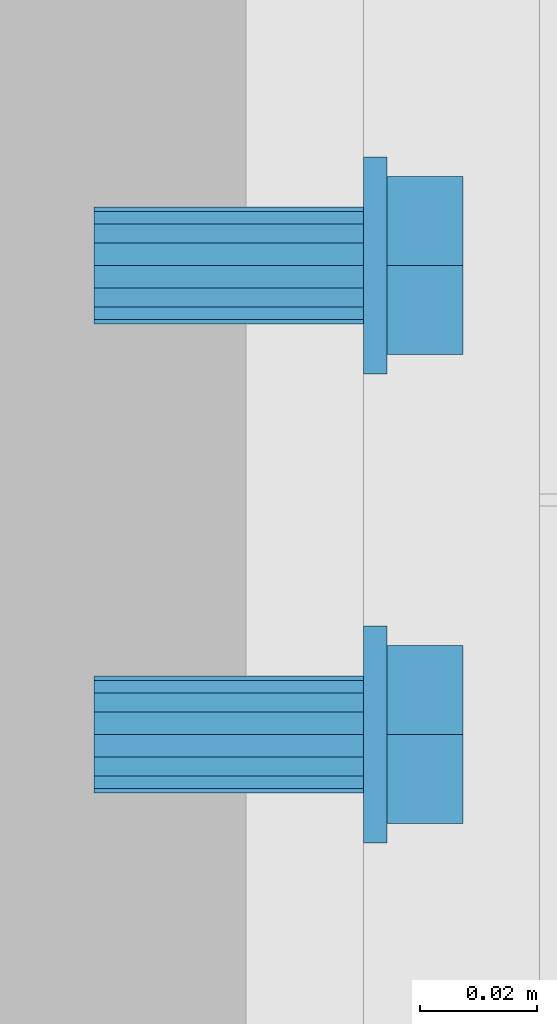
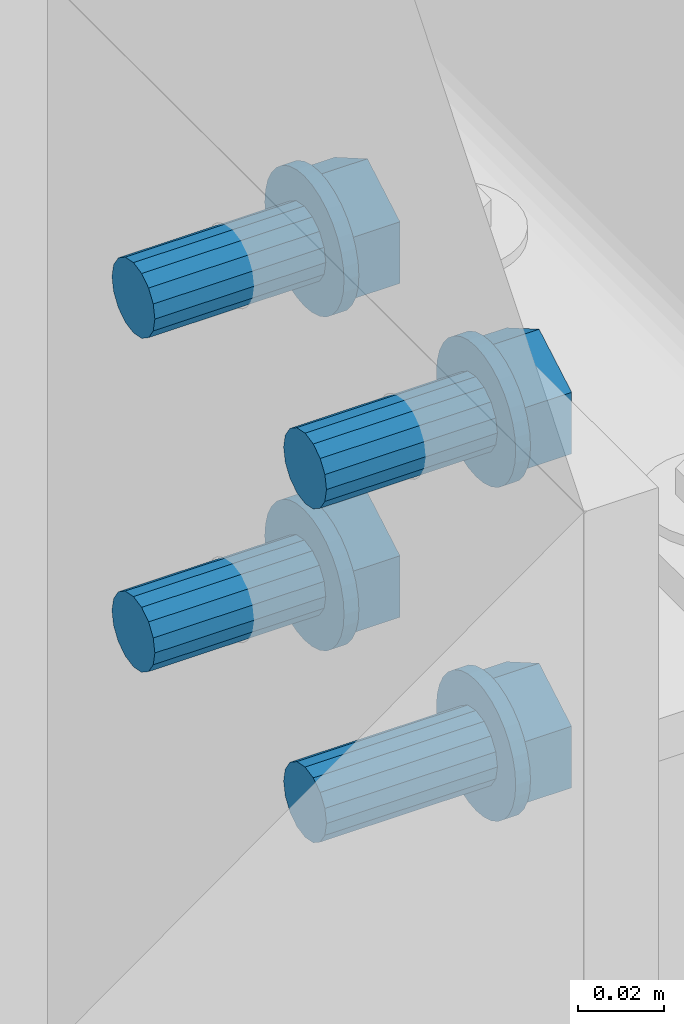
# One storey, part 310 of 410: 4 mechanical fasteners.
"""IFC2X3 building model written with IfcOpenShell, lengths in millimetres."""

from ifc_helpers import new_model, entity, si_unit, converted_unit, origin_with_axes, place, context, project, spatial, faceted_brep, element, save


model = new_model("IFC2X3")

# Units and contexts
model_context = context("Model", 3, precision=1e-09, world=origin_with_axes())
ifc_project = project(units=[si_unit("LENGTHUNIT", "METRE", prefix="MILLI"), si_unit("AREAUNIT", "SQUARE_METRE"), si_unit("VOLUMEUNIT", "CUBIC_METRE"), converted_unit("PLANEANGLEUNIT", "DEGREE", entity("IfcPlaneAngleMeasure", 0.01745329), si_unit("PLANEANGLEUNIT", "RADIAN"), dimensions=[0, 0, 0, 0, 0, 0, 0])], contexts=[model_context])

# Site, building, storey
site_placement = place(None, origin_with_axes())
site = spatial("IfcSite", under=ifc_project, at=site_placement, Name="mKR Teilneubau & Sanierung BA1 - Ostfildern", CompositionType="ELEMENT")
building_placement = place(site_placement, origin_with_axes())
building = spatial("IfcBuilding", under=site, at=building_placement, Name="Struktur 1", CompositionType="ELEMENT")
storey_placement = place(building_placement, origin_with_axes())
storey = spatial("IfcBuildingStorey", under=building, at=storey_placement, Name="Default Storey", CompositionType="ELEMENT", Elevation=0.0)

# Mechanical fasteners
mechanical_fastener_1_placement = place(None, origin_with_axes())
element("IfcMechanicalFastener", 1, at=mechanical_fastener_1_placement, inside=storey, ObjectType="-", NominalDiameter=20.0, NominalLength=50.0, context=model_context, shape_type="Brep", body=[
    faceted_brep([(1795.0, 16958.5, 1578.0434785), (1799.0, 16958.5, 1578.0434785), (1799.0, 16958.144527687, 1574.434307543), (1795.0, 16958.144527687, 1574.434307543), (1799.0, 16957.091771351, 1570.963835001), (1795.0, 16957.091771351, 1570.963835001), (1799.0, 16955.382187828, 1567.765429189), (1795.0, 16955.382187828, 1567.765429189), (1799.0, 16953.081475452, 1564.962003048), (1795.0, 16953.081475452, 1564.962003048), (1799.0, 16950.278049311, 1562.661290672), (1795.0, 16950.278049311, 1562.661290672), (1799.0, 16947.079643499, 1560.951707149), (1795.0, 16947.079643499, 1560.951707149), (1799.0, 16943.609170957, 1559.898950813), (1795.0, 16943.609170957, 1559.898950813), (1799.0, 16940.0, 1559.5434785), (1795.0, 16940.0, 1559.5434785), (1799.0, 16936.390829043, 1559.898950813), (1795.0, 16936.390829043, 1559.898950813), (1799.0, 16932.920356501, 1560.951707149), (1795.0, 16932.920356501, 1560.951707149), (1799.0, 16929.721950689, 1562.661290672), (1795.0, 16929.721950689, 1562.661290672), (1799.0, 16926.918524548, 1564.962003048), (1795.0, 16926.918524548, 1564.962003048), (1799.0, 16924.617812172, 1567.765429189), (1795.0, 16924.617812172, 1567.765429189), (1799.0, 16922.908228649, 1570.963835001), (1795.0, 16922.908228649, 1570.963835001), (1799.0, 16921.855472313, 1574.434307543), (1795.0, 16921.855472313, 1574.434307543), (1799.0, 16921.5, 1578.0434785), (1795.0, 16921.5, 1578.0434785), (1799.0, 16921.855472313, 1581.652649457), (1795.0, 16921.855472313, 1581.652649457), (1799.0, 16922.908228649, 1585.123121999), (1795.0, 16922.908228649, 1585.123121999), (1799.0, 16924.617812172, 1588.321527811), (1795.0, 16924.617812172, 1588.321527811), (1799.0, 16926.918524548, 1591.124953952), (1795.0, 16926.918524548, 1591.124953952), (1799.0, 16929.721950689, 1593.425666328), (1795.0, 16929.721950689, 1593.425666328), (1799.0, 16932.920356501, 1595.135249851), (1795.0, 16932.920356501, 1595.135249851), (1799.0, 16936.390829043, 1596.188006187), (1795.0, 16936.390829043, 1596.188006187), (1799.0, 16940.0, 1596.5434785), (1795.0, 16940.0, 1596.5434785), (1799.0, 16943.609170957, 1596.188006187), (1795.0, 16943.609170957, 1596.188006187), (1799.0, 16947.079643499, 1595.135249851), (1795.0, 16947.079643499, 1595.135249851), (1799.0, 16950.278049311, 1593.425666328), (1795.0, 16950.278049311, 1593.425666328), (1799.0, 16953.081475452, 1591.124953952), (1795.0, 16953.081475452, 1591.124953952), (1799.0, 16955.382187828, 1588.321527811), (1795.0, 16955.382187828, 1588.321527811), (1799.0, 16957.091771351, 1585.123121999), (1795.0, 16957.091771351, 1585.123121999), (1799.0, 16958.144527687, 1581.652649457), (1795.0, 16958.144527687, 1581.652649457)], [[[0, 1, 2, 3]], [[3, 2, 4, 5]], [[5, 4, 6, 7]], [[7, 6, 8, 9]], [[9, 8, 10, 11]], [[11, 10, 12, 13]], [[13, 12, 14, 15]], [[15, 14, 16, 17]], [[17, 16, 18, 19]], [[19, 18, 20, 21]], [[21, 20, 22, 23]], [[23, 22, 24, 25]], [[25, 24, 26, 27]], [[27, 26, 28, 29]], [[29, 28, 30, 31]], [[31, 30, 32, 33]], [[33, 32, 34, 35]], [[35, 34, 36, 37]], [[37, 36, 38, 39]], [[39, 38, 40, 41]], [[41, 40, 42, 43]], [[43, 42, 44, 45]], [[45, 44, 46, 47]], [[47, 46, 48, 49]], [[49, 48, 50, 51]], [[51, 50, 52, 53]], [[53, 52, 54, 55]], [[55, 54, 56, 57]], [[57, 56, 58, 59]], [[59, 58, 60, 61]], [[61, 60, 62, 63]], [[63, 62, 1, 0]], [[2, 1, 62, 60, 58, 56, 54, 52, 50, 48, 46, 44, 42, 40, 38, 36, 34, 32, 30, 28, 26, 24, 22, 20, 18, 16, 14, 12, 10, 8, 6, 4]], [[63, 0, 3, 5, 7, 9, 11, 13, 15, 17, 19, 21, 23, 25, 27, 29, 31, 33, 35, 37, 39, 41, 43, 45, 47, 49, 51, 53, 55, 57, 59, 61]]]),
    faceted_brep([(1812.0, 16924.831565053, 1569.2859785), (1799.0, 16924.831565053, 1569.2859785), (1799.0, 16940.0, 1560.5284785), (1812.0, 16940.0, 1560.5284785), (1799.0, 16955.168434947, 1569.2859785), (1812.0, 16955.168434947, 1569.2859785), (1799.0, 16955.168434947, 1586.8009785), (1812.0, 16955.168434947, 1586.8009785), (1799.0, 16940.0, 1595.5584785), (1812.0, 16940.0, 1595.5584785), (1799.0, 16924.831565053, 1586.8009785), (1812.0, 16924.831565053, 1586.8009785)], [[[0, 1, 2, 3]], [[3, 2, 4, 5]], [[5, 4, 6, 7]], [[7, 6, 8, 9]], [[9, 8, 10, 11]], [[11, 10, 1, 0]], [[3, 5, 7, 9, 11, 0]], [[2, 1, 10, 8, 6, 4]]]),
    faceted_brep([(1775.0, 16950.0, 1578.0434785), (1795.0, 16950.0, 1578.0434785), (1795.0, 16949.238795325, 1574.216644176), (1775.0, 16949.238795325, 1574.216644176), (1795.0, 16947.071067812, 1570.972410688), (1775.0, 16947.071067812, 1570.972410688), (1795.0, 16943.826834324, 1568.804683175), (1775.0, 16943.826834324, 1568.804683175), (1795.0, 16940.0, 1568.0434785), (1775.0, 16940.0, 1568.0434785), (1795.0, 16936.173165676, 1568.804683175), (1775.0, 16936.173165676, 1568.804683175), (1795.0, 16932.928932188, 1570.972410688), (1775.0, 16932.928932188, 1570.972410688), (1795.0, 16930.761204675, 1574.216644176), (1775.0, 16930.761204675, 1574.216644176), (1795.0, 16930.0, 1578.0434785), (1775.0, 16930.0, 1578.0434785), (1795.0, 16930.761204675, 1581.870312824), (1775.0, 16930.761204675, 1581.870312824), (1795.0, 16932.928932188, 1585.114546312), (1775.0, 16932.928932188, 1585.114546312), (1795.0, 16936.173165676, 1587.282273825), (1775.0, 16936.173165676, 1587.282273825), (1795.0, 16940.0, 1588.0434785), (1775.0, 16940.0, 1588.0434785), (1795.0, 16943.826834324, 1587.282273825), (1775.0, 16943.826834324, 1587.282273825), (1795.0, 16947.071067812, 1585.114546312), (1775.0, 16947.071067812, 1585.114546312), (1795.0, 16949.238795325, 1581.870312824), (1775.0, 16949.238795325, 1581.870312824)], [[[0, 1, 2, 3]], [[3, 2, 4, 5]], [[5, 4, 6, 7]], [[7, 6, 8, 9]], [[9, 8, 10, 11]], [[11, 10, 12, 13]], [[13, 12, 14, 15]], [[15, 14, 16, 17]], [[17, 16, 18, 19]], [[19, 18, 20, 21]], [[21, 20, 22, 23]], [[23, 22, 24, 25]], [[25, 24, 26, 27]], [[27, 26, 28, 29]], [[29, 28, 30, 31]], [[31, 30, 1, 0]], [[2, 1, 30, 28, 26, 24, 22, 20, 18, 16, 14, 12, 10, 8, 6, 4]], [[31, 0, 3, 5, 7, 9, 11, 13, 15, 17, 19, 21, 23, 25, 27, 29]]]),
    faceted_brep([(1749.0, 16950.0, 1578.0434785), (1775.0, 16950.0, 1578.0434785), (1775.0, 16949.238795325, 1574.216644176), (1749.0, 16949.238795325, 1574.216644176), (1775.0, 16947.071067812, 1570.972410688), (1749.0, 16947.071067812, 1570.972410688), (1775.0, 16943.826834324, 1568.804683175), (1749.0, 16943.826834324, 1568.804683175), (1775.0, 16940.0, 1568.0434785), (1749.0, 16940.0, 1568.0434785), (1775.0, 16936.173165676, 1568.804683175), (1749.0, 16936.173165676, 1568.804683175), (1775.0, 16932.928932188, 1570.972410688), (1749.0, 16932.928932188, 1570.972410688), (1775.0, 16930.761204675, 1574.216644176), (1749.0, 16930.761204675, 1574.216644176), (1775.0, 16930.0, 1578.0434785), (1749.0, 16930.0, 1578.0434785), (1775.0, 16930.761204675, 1581.870312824), (1749.0, 16930.761204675, 1581.870312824), (1775.0, 16932.928932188, 1585.114546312), (1749.0, 16932.928932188, 1585.114546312), (1775.0, 16936.173165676, 1587.282273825), (1749.0, 16936.173165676, 1587.282273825), (1775.0, 16940.0, 1588.0434785), (1749.0, 16940.0, 1588.0434785), (1775.0, 16943.826834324, 1587.282273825), (1749.0, 16943.826834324, 1587.282273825), (1775.0, 16947.071067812, 1585.114546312), (1749.0, 16947.071067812, 1585.114546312), (1775.0, 16949.238795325, 1581.870312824), (1749.0, 16949.238795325, 1581.870312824)], [[[0, 1, 2, 3]], [[3, 2, 4, 5]], [[5, 4, 6, 7]], [[7, 6, 8, 9]], [[9, 8, 10, 11]], [[11, 10, 12, 13]], [[13, 12, 14, 15]], [[15, 14, 16, 17]], [[17, 16, 18, 19]], [[19, 18, 20, 21]], [[21, 20, 22, 23]], [[23, 22, 24, 25]], [[25, 24, 26, 27]], [[27, 26, 28, 29]], [[29, 28, 30, 31]], [[31, 30, 1, 0]], [[2, 1, 30, 28, 26, 24, 22, 20, 18, 16, 14, 12, 10, 8, 6, 4]], [[31, 0, 3, 5, 7, 9, 11, 13, 15, 17, 19, 21, 23, 25, 27, 29]]]),
])
mechanical_fastener_2_placement = place(None, origin_with_axes())
element("IfcMechanicalFastener", 2, at=mechanical_fastener_2_placement, inside=storey, ObjectType="-", NominalDiameter=20.0, NominalLength=50.0, context=model_context, shape_type="Brep", body=[
    faceted_brep([(1795.0, 17038.5, 1578.0434785), (1799.0, 17038.5, 1578.0434785), (1799.0, 17038.144527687, 1574.434307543), (1795.0, 17038.144527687, 1574.434307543), (1799.0, 17037.091771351, 1570.963835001), (1795.0, 17037.091771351, 1570.963835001), (1799.0, 17035.382187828, 1567.765429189), (1795.0, 17035.382187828, 1567.765429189), (1799.0, 17033.081475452, 1564.962003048), (1795.0, 17033.081475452, 1564.962003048), (1799.0, 17030.278049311, 1562.661290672), (1795.0, 17030.278049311, 1562.661290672), (1799.0, 17027.079643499, 1560.951707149), (1795.0, 17027.079643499, 1560.951707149), (1799.0, 17023.609170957, 1559.898950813), (1795.0, 17023.609170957, 1559.898950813), (1799.0, 17020.0, 1559.5434785), (1795.0, 17020.0, 1559.5434785), (1799.0, 17016.390829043, 1559.898950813), (1795.0, 17016.390829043, 1559.898950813), (1799.0, 17012.920356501, 1560.951707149), (1795.0, 17012.920356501, 1560.951707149), (1799.0, 17009.721950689, 1562.661290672), (1795.0, 17009.721950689, 1562.661290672), (1799.0, 17006.918524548, 1564.962003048), (1795.0, 17006.918524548, 1564.962003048), (1799.0, 17004.617812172, 1567.765429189), (1795.0, 17004.617812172, 1567.765429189), (1799.0, 17002.908228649, 1570.963835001), (1795.0, 17002.908228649, 1570.963835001), (1799.0, 17001.855472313, 1574.434307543), (1795.0, 17001.855472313, 1574.434307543), (1799.0, 17001.5, 1578.0434785), (1795.0, 17001.5, 1578.0434785), (1799.0, 17001.855472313, 1581.652649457), (1795.0, 17001.855472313, 1581.652649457), (1799.0, 17002.908228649, 1585.123121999), (1795.0, 17002.908228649, 1585.123121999), (1799.0, 17004.617812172, 1588.321527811), (1795.0, 17004.617812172, 1588.321527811), (1799.0, 17006.918524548, 1591.124953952), (1795.0, 17006.918524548, 1591.124953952), (1799.0, 17009.721950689, 1593.425666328), (1795.0, 17009.721950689, 1593.425666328), (1799.0, 17012.920356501, 1595.135249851), (1795.0, 17012.920356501, 1595.135249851), (1799.0, 17016.390829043, 1596.188006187), (1795.0, 17016.390829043, 1596.188006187), (1799.0, 17020.0, 1596.5434785), (1795.0, 17020.0, 1596.5434785), (1799.0, 17023.609170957, 1596.188006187), (1795.0, 17023.609170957, 1596.188006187), (1799.0, 17027.079643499, 1595.135249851), (1795.0, 17027.079643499, 1595.135249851), (1799.0, 17030.278049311, 1593.425666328), (1795.0, 17030.278049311, 1593.425666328), (1799.0, 17033.081475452, 1591.124953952), (1795.0, 17033.081475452, 1591.124953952), (1799.0, 17035.382187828, 1588.321527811), (1795.0, 17035.382187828, 1588.321527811), (1799.0, 17037.091771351, 1585.123121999), (1795.0, 17037.091771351, 1585.123121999), (1799.0, 17038.144527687, 1581.652649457), (1795.0, 17038.144527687, 1581.652649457)], [[[0, 1, 2, 3]], [[3, 2, 4, 5]], [[5, 4, 6, 7]], [[7, 6, 8, 9]], [[9, 8, 10, 11]], [[11, 10, 12, 13]], [[13, 12, 14, 15]], [[15, 14, 16, 17]], [[17, 16, 18, 19]], [[19, 18, 20, 21]], [[21, 20, 22, 23]], [[23, 22, 24, 25]], [[25, 24, 26, 27]], [[27, 26, 28, 29]], [[29, 28, 30, 31]], [[31, 30, 32, 33]], [[33, 32, 34, 35]], [[35, 34, 36, 37]], [[37, 36, 38, 39]], [[39, 38, 40, 41]], [[41, 40, 42, 43]], [[43, 42, 44, 45]], [[45, 44, 46, 47]], [[47, 46, 48, 49]], [[49, 48, 50, 51]], [[51, 50, 52, 53]], [[53, 52, 54, 55]], [[55, 54, 56, 57]], [[57, 56, 58, 59]], [[59, 58, 60, 61]], [[61, 60, 62, 63]], [[63, 62, 1, 0]], [[2, 1, 62, 60, 58, 56, 54, 52, 50, 48, 46, 44, 42, 40, 38, 36, 34, 32, 30, 28, 26, 24, 22, 20, 18, 16, 14, 12, 10, 8, 6, 4]], [[63, 0, 3, 5, 7, 9, 11, 13, 15, 17, 19, 21, 23, 25, 27, 29, 31, 33, 35, 37, 39, 41, 43, 45, 47, 49, 51, 53, 55, 57, 59, 61]]]),
    faceted_brep([(1812.0, 17004.831565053, 1569.2859785), (1799.0, 17004.831565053, 1569.2859785), (1799.0, 17020.0, 1560.5284785), (1812.0, 17020.0, 1560.5284785), (1799.0, 17035.168434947, 1569.2859785), (1812.0, 17035.168434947, 1569.2859785), (1799.0, 17035.168434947, 1586.8009785), (1812.0, 17035.168434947, 1586.8009785), (1799.0, 17020.0, 1595.5584785), (1812.0, 17020.0, 1595.5584785), (1799.0, 17004.831565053, 1586.8009785), (1812.0, 17004.831565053, 1586.8009785)], [[[0, 1, 2, 3]], [[3, 2, 4, 5]], [[5, 4, 6, 7]], [[7, 6, 8, 9]], [[9, 8, 10, 11]], [[11, 10, 1, 0]], [[3, 5, 7, 9, 11, 0]], [[2, 1, 10, 8, 6, 4]]]),
    faceted_brep([(1775.0, 17030.0, 1578.0434785), (1795.0, 17030.0, 1578.0434785), (1795.0, 17029.238795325, 1574.216644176), (1775.0, 17029.238795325, 1574.216644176), (1795.0, 17027.071067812, 1570.972410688), (1775.0, 17027.071067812, 1570.972410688), (1795.0, 17023.826834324, 1568.804683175), (1775.0, 17023.826834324, 1568.804683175), (1795.0, 17020.0, 1568.0434785), (1775.0, 17020.0, 1568.0434785), (1795.0, 17016.173165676, 1568.804683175), (1775.0, 17016.173165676, 1568.804683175), (1795.0, 17012.928932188, 1570.972410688), (1775.0, 17012.928932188, 1570.972410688), (1795.0, 17010.761204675, 1574.216644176), (1775.0, 17010.761204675, 1574.216644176), (1795.0, 17010.0, 1578.0434785), (1775.0, 17010.0, 1578.0434785), (1795.0, 17010.761204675, 1581.870312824), (1775.0, 17010.761204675, 1581.870312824), (1795.0, 17012.928932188, 1585.114546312), (1775.0, 17012.928932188, 1585.114546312), (1795.0, 17016.173165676, 1587.282273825), (1775.0, 17016.173165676, 1587.282273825), (1795.0, 17020.0, 1588.0434785), (1775.0, 17020.0, 1588.0434785), (1795.0, 17023.826834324, 1587.282273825), (1775.0, 17023.826834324, 1587.282273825), (1795.0, 17027.071067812, 1585.114546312), (1775.0, 17027.071067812, 1585.114546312), (1795.0, 17029.238795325, 1581.870312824), (1775.0, 17029.238795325, 1581.870312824)], [[[0, 1, 2, 3]], [[3, 2, 4, 5]], [[5, 4, 6, 7]], [[7, 6, 8, 9]], [[9, 8, 10, 11]], [[11, 10, 12, 13]], [[13, 12, 14, 15]], [[15, 14, 16, 17]], [[17, 16, 18, 19]], [[19, 18, 20, 21]], [[21, 20, 22, 23]], [[23, 22, 24, 25]], [[25, 24, 26, 27]], [[27, 26, 28, 29]], [[29, 28, 30, 31]], [[31, 30, 1, 0]], [[2, 1, 30, 28, 26, 24, 22, 20, 18, 16, 14, 12, 10, 8, 6, 4]], [[31, 0, 3, 5, 7, 9, 11, 13, 15, 17, 19, 21, 23, 25, 27, 29]]]),
    faceted_brep([(1749.0, 17030.0, 1578.0434785), (1775.0, 17030.0, 1578.0434785), (1775.0, 17029.238795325, 1574.216644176), (1749.0, 17029.238795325, 1574.216644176), (1775.0, 17027.071067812, 1570.972410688), (1749.0, 17027.071067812, 1570.972410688), (1775.0, 17023.826834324, 1568.804683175), (1749.0, 17023.826834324, 1568.804683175), (1775.0, 17020.0, 1568.0434785), (1749.0, 17020.0, 1568.0434785), (1775.0, 17016.173165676, 1568.804683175), (1749.0, 17016.173165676, 1568.804683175), (1775.0, 17012.928932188, 1570.972410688), (1749.0, 17012.928932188, 1570.972410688), (1775.0, 17010.761204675, 1574.216644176), (1749.0, 17010.761204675, 1574.216644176), (1775.0, 17010.0, 1578.0434785), (1749.0, 17010.0, 1578.0434785), (1775.0, 17010.761204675, 1581.870312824), (1749.0, 17010.761204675, 1581.870312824), (1775.0, 17012.928932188, 1585.114546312), (1749.0, 17012.928932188, 1585.114546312), (1775.0, 17016.173165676, 1587.282273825), (1749.0, 17016.173165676, 1587.282273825), (1775.0, 17020.0, 1588.0434785), (1749.0, 17020.0, 1588.0434785), (1775.0, 17023.826834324, 1587.282273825), (1749.0, 17023.826834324, 1587.282273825), (1775.0, 17027.071067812, 1585.114546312), (1749.0, 17027.071067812, 1585.114546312), (1775.0, 17029.238795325, 1581.870312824), (1749.0, 17029.238795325, 1581.870312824)], [[[0, 1, 2, 3]], [[3, 2, 4, 5]], [[5, 4, 6, 7]], [[7, 6, 8, 9]], [[9, 8, 10, 11]], [[11, 10, 12, 13]], [[13, 12, 14, 15]], [[15, 14, 16, 17]], [[17, 16, 18, 19]], [[19, 18, 20, 21]], [[21, 20, 22, 23]], [[23, 22, 24, 25]], [[25, 24, 26, 27]], [[27, 26, 28, 29]], [[29, 28, 30, 31]], [[31, 30, 1, 0]], [[2, 1, 30, 28, 26, 24, 22, 20, 18, 16, 14, 12, 10, 8, 6, 4]], [[31, 0, 3, 5, 7, 9, 11, 13, 15, 17, 19, 21, 23, 25, 27, 29]]]),
])
mechanical_fastener_3_placement = place(None, origin_with_axes())
element("IfcMechanicalFastener", 3, at=mechanical_fastener_3_placement, inside=storey, ObjectType="-", NominalDiameter=20.0, NominalLength=50.0, context=model_context, shape_type="Brep", body=[
    faceted_brep([(1795.0, 16958.5, 1673.0434785), (1799.0, 16958.5, 1673.0434785), (1799.0, 16958.144527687, 1669.434307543), (1795.0, 16958.144527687, 1669.434307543), (1799.0, 16957.091771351, 1665.963835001), (1795.0, 16957.091771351, 1665.963835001), (1799.0, 16955.382187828, 1662.765429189), (1795.0, 16955.382187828, 1662.765429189), (1799.0, 16953.081475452, 1659.962003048), (1795.0, 16953.081475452, 1659.962003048), (1799.0, 16950.278049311, 1657.661290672), (1795.0, 16950.278049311, 1657.661290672), (1799.0, 16947.079643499, 1655.951707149), (1795.0, 16947.079643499, 1655.951707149), (1799.0, 16943.609170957, 1654.898950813), (1795.0, 16943.609170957, 1654.898950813), (1799.0, 16940.0, 1654.5434785), (1795.0, 16940.0, 1654.5434785), (1799.0, 16936.390829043, 1654.898950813), (1795.0, 16936.390829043, 1654.898950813), (1799.0, 16932.920356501, 1655.951707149), (1795.0, 16932.920356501, 1655.951707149), (1799.0, 16929.721950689, 1657.661290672), (1795.0, 16929.721950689, 1657.661290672), (1799.0, 16926.918524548, 1659.962003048), (1795.0, 16926.918524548, 1659.962003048), (1799.0, 16924.617812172, 1662.765429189), (1795.0, 16924.617812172, 1662.765429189), (1799.0, 16922.908228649, 1665.963835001), (1795.0, 16922.908228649, 1665.963835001), (1799.0, 16921.855472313, 1669.434307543), (1795.0, 16921.855472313, 1669.434307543), (1799.0, 16921.5, 1673.0434785), (1795.0, 16921.5, 1673.0434785), (1799.0, 16921.855472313, 1676.652649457), (1795.0, 16921.855472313, 1676.652649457), (1799.0, 16922.908228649, 1680.123121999), (1795.0, 16922.908228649, 1680.123121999), (1799.0, 16924.617812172, 1683.321527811), (1795.0, 16924.617812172, 1683.321527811), (1799.0, 16926.918524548, 1686.124953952), (1795.0, 16926.918524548, 1686.124953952), (1799.0, 16929.721950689, 1688.425666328), (1795.0, 16929.721950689, 1688.425666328), (1799.0, 16932.920356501, 1690.135249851), (1795.0, 16932.920356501, 1690.135249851), (1799.0, 16936.390829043, 1691.188006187), (1795.0, 16936.390829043, 1691.188006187), (1799.0, 16940.0, 1691.5434785), (1795.0, 16940.0, 1691.5434785), (1799.0, 16943.609170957, 1691.188006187), (1795.0, 16943.609170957, 1691.188006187), (1799.0, 16947.079643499, 1690.135249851), (1795.0, 16947.079643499, 1690.135249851), (1799.0, 16950.278049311, 1688.425666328), (1795.0, 16950.278049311, 1688.425666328), (1799.0, 16953.081475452, 1686.124953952), (1795.0, 16953.081475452, 1686.124953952), (1799.0, 16955.382187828, 1683.321527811), (1795.0, 16955.382187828, 1683.321527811), (1799.0, 16957.091771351, 1680.123121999), (1795.0, 16957.091771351, 1680.123121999), (1799.0, 16958.144527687, 1676.652649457), (1795.0, 16958.144527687, 1676.652649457)], [[[0, 1, 2, 3]], [[3, 2, 4, 5]], [[5, 4, 6, 7]], [[7, 6, 8, 9]], [[9, 8, 10, 11]], [[11, 10, 12, 13]], [[13, 12, 14, 15]], [[15, 14, 16, 17]], [[17, 16, 18, 19]], [[19, 18, 20, 21]], [[21, 20, 22, 23]], [[23, 22, 24, 25]], [[25, 24, 26, 27]], [[27, 26, 28, 29]], [[29, 28, 30, 31]], [[31, 30, 32, 33]], [[33, 32, 34, 35]], [[35, 34, 36, 37]], [[37, 36, 38, 39]], [[39, 38, 40, 41]], [[41, 40, 42, 43]], [[43, 42, 44, 45]], [[45, 44, 46, 47]], [[47, 46, 48, 49]], [[49, 48, 50, 51]], [[51, 50, 52, 53]], [[53, 52, 54, 55]], [[55, 54, 56, 57]], [[57, 56, 58, 59]], [[59, 58, 60, 61]], [[61, 60, 62, 63]], [[63, 62, 1, 0]], [[2, 1, 62, 60, 58, 56, 54, 52, 50, 48, 46, 44, 42, 40, 38, 36, 34, 32, 30, 28, 26, 24, 22, 20, 18, 16, 14, 12, 10, 8, 6, 4]], [[63, 0, 3, 5, 7, 9, 11, 13, 15, 17, 19, 21, 23, 25, 27, 29, 31, 33, 35, 37, 39, 41, 43, 45, 47, 49, 51, 53, 55, 57, 59, 61]]]),
    faceted_brep([(1812.0, 16924.831565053, 1664.2859785), (1799.0, 16924.831565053, 1664.2859785), (1799.0, 16940.0, 1655.5284785), (1812.0, 16940.0, 1655.5284785), (1799.0, 16955.168434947, 1664.2859785), (1812.0, 16955.168434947, 1664.2859785), (1799.0, 16955.168434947, 1681.8009785), (1812.0, 16955.168434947, 1681.8009785), (1799.0, 16940.0, 1690.5584785), (1812.0, 16940.0, 1690.5584785), (1799.0, 16924.831565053, 1681.8009785), (1812.0, 16924.831565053, 1681.8009785)], [[[0, 1, 2, 3]], [[3, 2, 4, 5]], [[5, 4, 6, 7]], [[7, 6, 8, 9]], [[9, 8, 10, 11]], [[11, 10, 1, 0]], [[3, 5, 7, 9, 11, 0]], [[2, 1, 10, 8, 6, 4]]]),
    faceted_brep([(1775.0, 16950.0, 1673.0434785), (1795.0, 16950.0, 1673.0434785), (1795.0, 16949.238795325, 1669.216644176), (1775.0, 16949.238795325, 1669.216644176), (1795.0, 16947.071067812, 1665.972410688), (1775.0, 16947.071067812, 1665.972410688), (1795.0, 16943.826834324, 1663.804683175), (1775.0, 16943.826834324, 1663.804683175), (1795.0, 16940.0, 1663.0434785), (1775.0, 16940.0, 1663.0434785), (1795.0, 16936.173165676, 1663.804683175), (1775.0, 16936.173165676, 1663.804683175), (1795.0, 16932.928932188, 1665.972410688), (1775.0, 16932.928932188, 1665.972410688), (1795.0, 16930.761204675, 1669.216644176), (1775.0, 16930.761204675, 1669.216644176), (1795.0, 16930.0, 1673.0434785), (1775.0, 16930.0, 1673.0434785), (1795.0, 16930.761204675, 1676.870312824), (1775.0, 16930.761204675, 1676.870312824), (1795.0, 16932.928932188, 1680.114546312), (1775.0, 16932.928932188, 1680.114546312), (1795.0, 16936.173165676, 1682.282273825), (1775.0, 16936.173165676, 1682.282273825), (1795.0, 16940.0, 1683.0434785), (1775.0, 16940.0, 1683.0434785), (1795.0, 16943.826834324, 1682.282273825), (1775.0, 16943.826834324, 1682.282273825), (1795.0, 16947.071067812, 1680.114546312), (1775.0, 16947.071067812, 1680.114546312), (1795.0, 16949.238795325, 1676.870312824), (1775.0, 16949.238795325, 1676.870312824)], [[[0, 1, 2, 3]], [[3, 2, 4, 5]], [[5, 4, 6, 7]], [[7, 6, 8, 9]], [[9, 8, 10, 11]], [[11, 10, 12, 13]], [[13, 12, 14, 15]], [[15, 14, 16, 17]], [[17, 16, 18, 19]], [[19, 18, 20, 21]], [[21, 20, 22, 23]], [[23, 22, 24, 25]], [[25, 24, 26, 27]], [[27, 26, 28, 29]], [[29, 28, 30, 31]], [[31, 30, 1, 0]], [[2, 1, 30, 28, 26, 24, 22, 20, 18, 16, 14, 12, 10, 8, 6, 4]], [[31, 0, 3, 5, 7, 9, 11, 13, 15, 17, 19, 21, 23, 25, 27, 29]]]),
    faceted_brep([(1749.0, 16950.0, 1673.0434785), (1775.0, 16950.0, 1673.0434785), (1775.0, 16949.238795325, 1669.216644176), (1749.0, 16949.238795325, 1669.216644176), (1775.0, 16947.071067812, 1665.972410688), (1749.0, 16947.071067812, 1665.972410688), (1775.0, 16943.826834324, 1663.804683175), (1749.0, 16943.826834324, 1663.804683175), (1775.0, 16940.0, 1663.0434785), (1749.0, 16940.0, 1663.0434785), (1775.0, 16936.173165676, 1663.804683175), (1749.0, 16936.173165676, 1663.804683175), (1775.0, 16932.928932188, 1665.972410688), (1749.0, 16932.928932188, 1665.972410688), (1775.0, 16930.761204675, 1669.216644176), (1749.0, 16930.761204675, 1669.216644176), (1775.0, 16930.0, 1673.0434785), (1749.0, 16930.0, 1673.0434785), (1775.0, 16930.761204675, 1676.870312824), (1749.0, 16930.761204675, 1676.870312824), (1775.0, 16932.928932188, 1680.114546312), (1749.0, 16932.928932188, 1680.114546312), (1775.0, 16936.173165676, 1682.282273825), (1749.0, 16936.173165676, 1682.282273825), (1775.0, 16940.0, 1683.0434785), (1749.0, 16940.0, 1683.0434785), (1775.0, 16943.826834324, 1682.282273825), (1749.0, 16943.826834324, 1682.282273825), (1775.0, 16947.071067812, 1680.114546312), (1749.0, 16947.071067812, 1680.114546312), (1775.0, 16949.238795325, 1676.870312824), (1749.0, 16949.238795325, 1676.870312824)], [[[0, 1, 2, 3]], [[3, 2, 4, 5]], [[5, 4, 6, 7]], [[7, 6, 8, 9]], [[9, 8, 10, 11]], [[11, 10, 12, 13]], [[13, 12, 14, 15]], [[15, 14, 16, 17]], [[17, 16, 18, 19]], [[19, 18, 20, 21]], [[21, 20, 22, 23]], [[23, 22, 24, 25]], [[25, 24, 26, 27]], [[27, 26, 28, 29]], [[29, 28, 30, 31]], [[31, 30, 1, 0]], [[2, 1, 30, 28, 26, 24, 22, 20, 18, 16, 14, 12, 10, 8, 6, 4]], [[31, 0, 3, 5, 7, 9, 11, 13, 15, 17, 19, 21, 23, 25, 27, 29]]]),
])
mechanical_fastener_4_placement = place(None, origin_with_axes())
element("IfcMechanicalFastener", 4, at=mechanical_fastener_4_placement, inside=storey, ObjectType="-", NominalDiameter=20.0, NominalLength=50.0, context=model_context, shape_type="Brep", body=[
    faceted_brep([(1795.0, 17038.5, 1673.0434785), (1799.0, 17038.5, 1673.0434785), (1799.0, 17038.144527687, 1669.434307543), (1795.0, 17038.144527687, 1669.434307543), (1799.0, 17037.091771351, 1665.963835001), (1795.0, 17037.091771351, 1665.963835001), (1799.0, 17035.382187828, 1662.765429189), (1795.0, 17035.382187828, 1662.765429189), (1799.0, 17033.081475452, 1659.962003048), (1795.0, 17033.081475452, 1659.962003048), (1799.0, 17030.278049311, 1657.661290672), (1795.0, 17030.278049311, 1657.661290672), (1799.0, 17027.079643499, 1655.951707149), (1795.0, 17027.079643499, 1655.951707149), (1799.0, 17023.609170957, 1654.898950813), (1795.0, 17023.609170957, 1654.898950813), (1799.0, 17020.0, 1654.5434785), (1795.0, 17020.0, 1654.5434785), (1799.0, 17016.390829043, 1654.898950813), (1795.0, 17016.390829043, 1654.898950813), (1799.0, 17012.920356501, 1655.951707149), (1795.0, 17012.920356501, 1655.951707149), (1799.0, 17009.721950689, 1657.661290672), (1795.0, 17009.721950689, 1657.661290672), (1799.0, 17006.918524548, 1659.962003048), (1795.0, 17006.918524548, 1659.962003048), (1799.0, 17004.617812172, 1662.765429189), (1795.0, 17004.617812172, 1662.765429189), (1799.0, 17002.908228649, 1665.963835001), (1795.0, 17002.908228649, 1665.963835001), (1799.0, 17001.855472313, 1669.434307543), (1795.0, 17001.855472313, 1669.434307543), (1799.0, 17001.5, 1673.0434785), (1795.0, 17001.5, 1673.0434785), (1799.0, 17001.855472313, 1676.652649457), (1795.0, 17001.855472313, 1676.652649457), (1799.0, 17002.908228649, 1680.123121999), (1795.0, 17002.908228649, 1680.123121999), (1799.0, 17004.617812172, 1683.321527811), (1795.0, 17004.617812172, 1683.321527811), (1799.0, 17006.918524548, 1686.124953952), (1795.0, 17006.918524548, 1686.124953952), (1799.0, 17009.721950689, 1688.425666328), (1795.0, 17009.721950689, 1688.425666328), (1799.0, 17012.920356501, 1690.135249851), (1795.0, 17012.920356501, 1690.135249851), (1799.0, 17016.390829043, 1691.188006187), (1795.0, 17016.390829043, 1691.188006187), (1799.0, 17020.0, 1691.5434785), (1795.0, 17020.0, 1691.5434785), (1799.0, 17023.609170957, 1691.188006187), (1795.0, 17023.609170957, 1691.188006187), (1799.0, 17027.079643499, 1690.135249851), (1795.0, 17027.079643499, 1690.135249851), (1799.0, 17030.278049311, 1688.425666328), (1795.0, 17030.278049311, 1688.425666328), (1799.0, 17033.081475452, 1686.124953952), (1795.0, 17033.081475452, 1686.124953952), (1799.0, 17035.382187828, 1683.321527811), (1795.0, 17035.382187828, 1683.321527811), (1799.0, 17037.091771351, 1680.123121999), (1795.0, 17037.091771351, 1680.123121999), (1799.0, 17038.144527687, 1676.652649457), (1795.0, 17038.144527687, 1676.652649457)], [[[0, 1, 2, 3]], [[3, 2, 4, 5]], [[5, 4, 6, 7]], [[7, 6, 8, 9]], [[9, 8, 10, 11]], [[11, 10, 12, 13]], [[13, 12, 14, 15]], [[15, 14, 16, 17]], [[17, 16, 18, 19]], [[19, 18, 20, 21]], [[21, 20, 22, 23]], [[23, 22, 24, 25]], [[25, 24, 26, 27]], [[27, 26, 28, 29]], [[29, 28, 30, 31]], [[31, 30, 32, 33]], [[33, 32, 34, 35]], [[35, 34, 36, 37]], [[37, 36, 38, 39]], [[39, 38, 40, 41]], [[41, 40, 42, 43]], [[43, 42, 44, 45]], [[45, 44, 46, 47]], [[47, 46, 48, 49]], [[49, 48, 50, 51]], [[51, 50, 52, 53]], [[53, 52, 54, 55]], [[55, 54, 56, 57]], [[57, 56, 58, 59]], [[59, 58, 60, 61]], [[61, 60, 62, 63]], [[63, 62, 1, 0]], [[2, 1, 62, 60, 58, 56, 54, 52, 50, 48, 46, 44, 42, 40, 38, 36, 34, 32, 30, 28, 26, 24, 22, 20, 18, 16, 14, 12, 10, 8, 6, 4]], [[63, 0, 3, 5, 7, 9, 11, 13, 15, 17, 19, 21, 23, 25, 27, 29, 31, 33, 35, 37, 39, 41, 43, 45, 47, 49, 51, 53, 55, 57, 59, 61]]]),
    faceted_brep([(1812.0, 17004.831565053, 1664.2859785), (1799.0, 17004.831565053, 1664.2859785), (1799.0, 17020.0, 1655.5284785), (1812.0, 17020.0, 1655.5284785), (1799.0, 17035.168434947, 1664.2859785), (1812.0, 17035.168434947, 1664.2859785), (1799.0, 17035.168434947, 1681.8009785), (1812.0, 17035.168434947, 1681.8009785), (1799.0, 17020.0, 1690.5584785), (1812.0, 17020.0, 1690.5584785), (1799.0, 17004.831565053, 1681.8009785), (1812.0, 17004.831565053, 1681.8009785)], [[[0, 1, 2, 3]], [[3, 2, 4, 5]], [[5, 4, 6, 7]], [[7, 6, 8, 9]], [[9, 8, 10, 11]], [[11, 10, 1, 0]], [[3, 5, 7, 9, 11, 0]], [[2, 1, 10, 8, 6, 4]]]),
    faceted_brep([(1775.0, 17030.0, 1673.0434785), (1795.0, 17030.0, 1673.0434785), (1795.0, 17029.238795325, 1669.216644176), (1775.0, 17029.238795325, 1669.216644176), (1795.0, 17027.071067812, 1665.972410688), (1775.0, 17027.071067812, 1665.972410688), (1795.0, 17023.826834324, 1663.804683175), (1775.0, 17023.826834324, 1663.804683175), (1795.0, 17020.0, 1663.0434785), (1775.0, 17020.0, 1663.0434785), (1795.0, 17016.173165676, 1663.804683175), (1775.0, 17016.173165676, 1663.804683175), (1795.0, 17012.928932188, 1665.972410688), (1775.0, 17012.928932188, 1665.972410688), (1795.0, 17010.761204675, 1669.216644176), (1775.0, 17010.761204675, 1669.216644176), (1795.0, 17010.0, 1673.0434785), (1775.0, 17010.0, 1673.0434785), (1795.0, 17010.761204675, 1676.870312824), (1775.0, 17010.761204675, 1676.870312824), (1795.0, 17012.928932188, 1680.114546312), (1775.0, 17012.928932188, 1680.114546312), (1795.0, 17016.173165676, 1682.282273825), (1775.0, 17016.173165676, 1682.282273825), (1795.0, 17020.0, 1683.0434785), (1775.0, 17020.0, 1683.0434785), (1795.0, 17023.826834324, 1682.282273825), (1775.0, 17023.826834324, 1682.282273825), (1795.0, 17027.071067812, 1680.114546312), (1775.0, 17027.071067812, 1680.114546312), (1795.0, 17029.238795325, 1676.870312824), (1775.0, 17029.238795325, 1676.870312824)], [[[0, 1, 2, 3]], [[3, 2, 4, 5]], [[5, 4, 6, 7]], [[7, 6, 8, 9]], [[9, 8, 10, 11]], [[11, 10, 12, 13]], [[13, 12, 14, 15]], [[15, 14, 16, 17]], [[17, 16, 18, 19]], [[19, 18, 20, 21]], [[21, 20, 22, 23]], [[23, 22, 24, 25]], [[25, 24, 26, 27]], [[27, 26, 28, 29]], [[29, 28, 30, 31]], [[31, 30, 1, 0]], [[2, 1, 30, 28, 26, 24, 22, 20, 18, 16, 14, 12, 10, 8, 6, 4]], [[31, 0, 3, 5, 7, 9, 11, 13, 15, 17, 19, 21, 23, 25, 27, 29]]]),
    faceted_brep([(1749.0, 17030.0, 1673.0434785), (1775.0, 17030.0, 1673.0434785), (1775.0, 17029.238795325, 1669.216644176), (1749.0, 17029.238795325, 1669.216644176), (1775.0, 17027.071067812, 1665.972410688), (1749.0, 17027.071067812, 1665.972410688), (1775.0, 17023.826834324, 1663.804683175), (1749.0, 17023.826834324, 1663.804683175), (1775.0, 17020.0, 1663.0434785), (1749.0, 17020.0, 1663.0434785), (1775.0, 17016.173165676, 1663.804683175), (1749.0, 17016.173165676, 1663.804683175), (1775.0, 17012.928932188, 1665.972410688), (1749.0, 17012.928932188, 1665.972410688), (1775.0, 17010.761204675, 1669.216644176), (1749.0, 17010.761204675, 1669.216644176), (1775.0, 17010.0, 1673.0434785), (1749.0, 17010.0, 1673.0434785), (1775.0, 17010.761204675, 1676.870312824), (1749.0, 17010.761204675, 1676.870312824), (1775.0, 17012.928932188, 1680.114546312), (1749.0, 17012.928932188, 1680.114546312), (1775.0, 17016.173165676, 1682.282273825), (1749.0, 17016.173165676, 1682.282273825), (1775.0, 17020.0, 1683.0434785), (1749.0, 17020.0, 1683.0434785), (1775.0, 17023.826834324, 1682.282273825), (1749.0, 17023.826834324, 1682.282273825), (1775.0, 17027.071067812, 1680.114546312), (1749.0, 17027.071067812, 1680.114546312), (1775.0, 17029.238795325, 1676.870312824), (1749.0, 17029.238795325, 1676.870312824)], [[[0, 1, 2, 3]], [[3, 2, 4, 5]], [[5, 4, 6, 7]], [[7, 6, 8, 9]], [[9, 8, 10, 11]], [[11, 10, 12, 13]], [[13, 12, 14, 15]], [[15, 14, 16, 17]], [[17, 16, 18, 19]], [[19, 18, 20, 21]], [[21, 20, 22, 23]], [[23, 22, 24, 25]], [[25, 24, 26, 27]], [[27, 26, 28, 29]], [[29, 28, 30, 31]], [[31, 30, 1, 0]], [[2, 1, 30, 28, 26, 24, 22, 20, 18, 16, 14, 12, 10, 8, 6, 4]], [[31, 0, 3, 5, 7, 9, 11, 13, 15, 17, 19, 21, 23, 25, 27, 29]]]),
])

save(model, "model.ifc")
